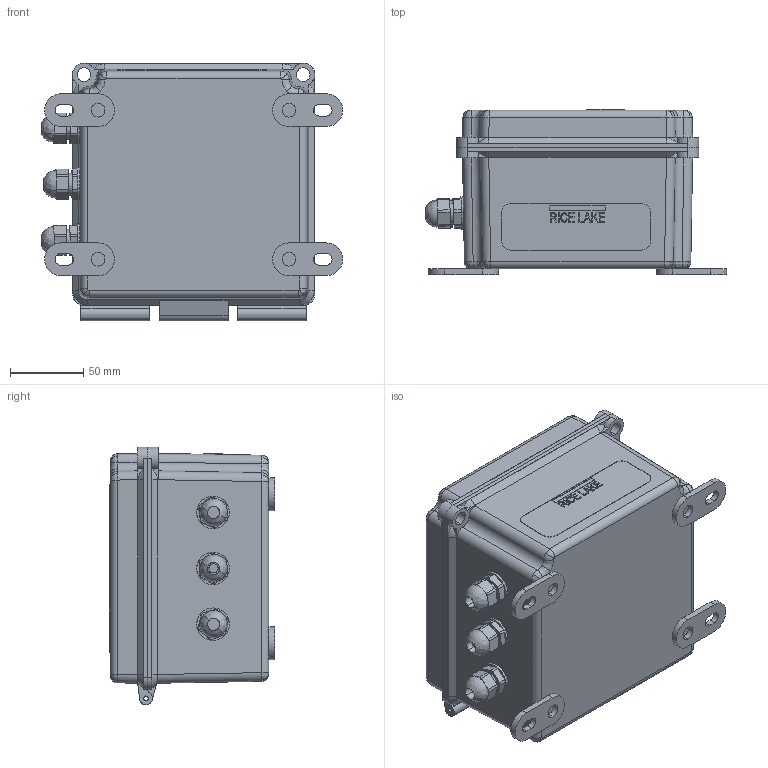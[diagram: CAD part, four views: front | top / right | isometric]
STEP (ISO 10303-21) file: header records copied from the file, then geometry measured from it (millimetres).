
FILE_DESCRIPTION (( 'STEP AP203' ), '1' );
FILE_NAME ('196770.STEP', '2022-09-27T19:29:44', ( '' ), ( '' ), 'SwSTEP 2.0', 'SolidWorks 2020', '' );
FILE_SCHEMA (( 'CONFIG_CONTROL_DESIGN' ));
Length unit declared in the file: inch
Products named in the file (1): 196770
Bounding box: 205.37 x 112.84 x 175.56 mm (x, y, z)
Surface area: 147429.9 mm2 (no closed solid volume)
Topology: 0 solids, 28 shells, 458 faces, 1861 edges, 1390 vertices
Faces by surface type: plane 247, cylinder 143, bspline 68
Entity records: 24171 total; most frequent: CARTESIAN_POINT 9858, ORIENTED_EDGE 2820, DIRECTION 2579, EDGE_CURVE 1849, VERTEX_POINT 1390, LINE 1153, VECTOR 1153, AXIS2_PLACEMENT_3D 713
